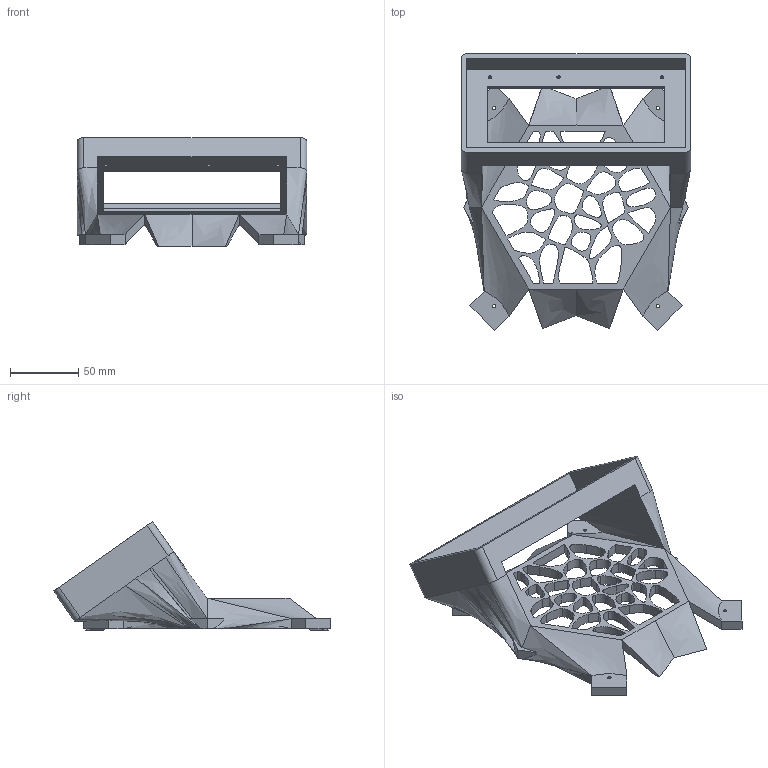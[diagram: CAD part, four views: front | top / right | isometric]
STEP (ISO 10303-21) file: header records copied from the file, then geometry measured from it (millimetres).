
FILE_DESCRIPTION(/* description */ (''),/* implementation_level */ '2;1');
FILE_NAME(/* name */ 'top_enclosure.step',/* time_stamp */ '2026-06-11T18:39:59-06:00',/* author */ (''),/* organization */ (''),/* preprocessor_version */ 'ST-DEVELOPER v20.1',/* originating_system */ 'Autodesk Translation Framework v15.8.0.0',/* authorisation */ '');
FILE_SCHEMA (('AUTOMOTIVE_DESIGN { 1 0 10303 214 3 1 1 }'));
Length unit declared in the file: millimetre
Products named in the file (1): top_enclosure
Bounding box: 168.5 x 202.88 x 79.58 mm (x, y, z)
Volume: 247581 mm3; surface area: 100301.2 mm2
Topology: 1 solids, 1 shells, 285 faces, 795 edges, 507 vertices
Faces by surface type: bspline 194, plane 77, cylinder 14
Full cylindrical faces by diameter (mm): 2.5 x10
Entity records: 10256 total; most frequent: CARTESIAN_POINT 4013, ORIENTED_EDGE 1590, EDGE_CURVE 795, DIRECTION 669, VERTEX_POINT 507, LINE 421, VECTOR 421, EDGE_LOOP 364
